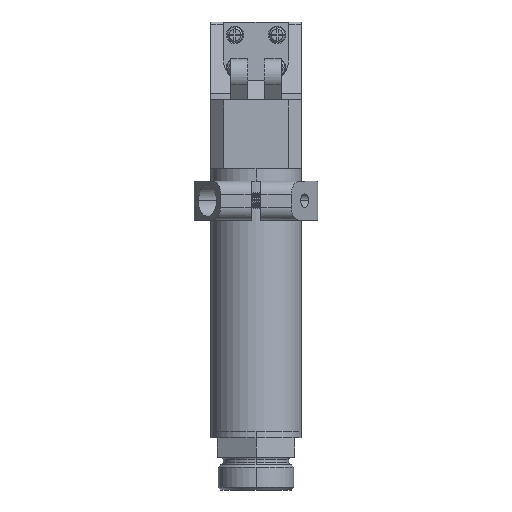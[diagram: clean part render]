
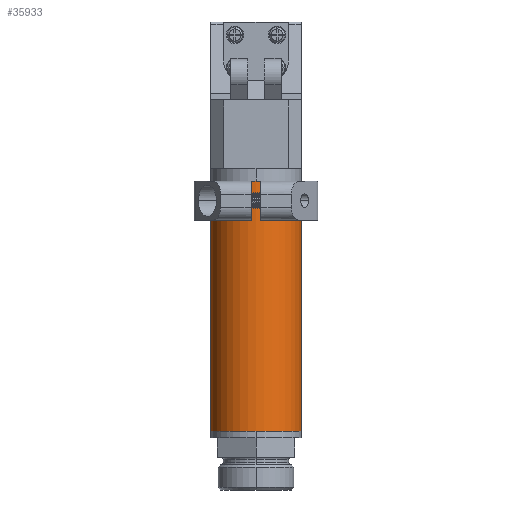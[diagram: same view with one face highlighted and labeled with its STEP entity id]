
A CAD part, front view. The second image highlights one B-rep face of the part: STEP entity #35933.
In plain terms, the highlighted cylindrical face has radius 7 mm (diameter 14 mm), a partial arc.
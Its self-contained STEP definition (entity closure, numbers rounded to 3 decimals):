
#356 = CARTESIAN_POINT ( 'NONE',  ( -23.387, -3.533, -62.758 ) ) ;
#2716 = DIRECTION ( 'NONE',  ( 0., 0., -1. ) ) ;
#2725 = CARTESIAN_POINT ( 'NONE',  ( -23.387, -3.533, -24.258 ) ) ;
#7471 = CIRCLE ( 'NONE', #125870, 7. ) ;
#8814 = DIRECTION ( 'NONE',  ( 0., 0., -1. ) ) ;
#12188 = CYLINDRICAL_SURFACE ( 'NONE', #107944, 7. ) ;
#13589 = DIRECTION ( 'NONE',  ( 0., 0., -1. ) ) ;
#18425 = VERTEX_POINT ( 'NONE', #2725 ) ;
#27029 = EDGE_CURVE ( 'NONE', #59931, #18425, #7471, .T. ) ;
#30334 = EDGE_LOOP ( 'NONE', ( #99077, #125480, #77110, #85995 ) ) ;
#31200 = CARTESIAN_POINT ( 'NONE',  ( -23.387, -3.533, -62.758 ) ) ;
#31789 = VERTEX_POINT ( 'NONE', #47917 ) ;
#35933 = ADVANCED_FACE ( 'NONE', ( #49376 ), #12188, .T. ) ;
#42632 = LINE ( 'NONE', #31200, #97764 ) ;
#44026 = CIRCLE ( 'NONE', #96922, 7. ) ;
#45202 = DIRECTION ( 'NONE',  ( 0., 1., 0. ) ) ;
#46914 = EDGE_CURVE ( 'NONE', #90904, #18425, #42632, .T. ) ;
#47917 = CARTESIAN_POINT ( 'NONE',  ( -9.387, -3.533, -62.758 ) ) ;
#49376 = FACE_OUTER_BOUND ( 'NONE', #30334, .T. ) ;
#52338 = DIRECTION ( 'NONE',  ( 0., 0., 1. ) ) ;
#59931 = VERTEX_POINT ( 'NONE', #128386 ) ;
#60736 = EDGE_CURVE ( 'NONE', #31789, #59931, #72048, .T. ) ;
#64766 = CARTESIAN_POINT ( 'NONE',  ( -16.387, -3.533, -24.258 ) ) ;
#70781 = CARTESIAN_POINT ( 'NONE',  ( -16.387, -3.533, -62.758 ) ) ;
#72048 = LINE ( 'NONE', #114500, #127355 ) ;
#75178 = DIRECTION ( 'NONE',  ( 1., 0., 0. ) ) ;
#77110 = ORIENTED_EDGE ( 'NONE', *, *, #114825, .F. ) ;
#81255 = DIRECTION ( 'NONE',  ( 1., 0., 0. ) ) ;
#85995 = ORIENTED_EDGE ( 'NONE', *, *, #60736, .T. ) ;
#90904 = VERTEX_POINT ( 'NONE', #356 ) ;
#96922 = AXIS2_PLACEMENT_3D ( 'NONE', #70781, #8814, #81255 ) ;
#97764 = VECTOR ( 'NONE', #103597, 1000. ) ;
#99077 = ORIENTED_EDGE ( 'NONE', *, *, #27029, .T. ) ;
#103597 = DIRECTION ( 'NONE',  ( 0., 0., 1. ) ) ;
#107329 = CARTESIAN_POINT ( 'NONE',  ( -16.387, -3.533, -22.333 ) ) ;
#107944 = AXIS2_PLACEMENT_3D ( 'NONE', #107329, #13589, #45202 ) ;
#114500 = CARTESIAN_POINT ( 'NONE',  ( -9.387, -3.533, -62.758 ) ) ;
#114825 = EDGE_CURVE ( 'NONE', #31789, #90904, #44026, .T. ) ;
#125480 = ORIENTED_EDGE ( 'NONE', *, *, #46914, .F. ) ;
#125870 = AXIS2_PLACEMENT_3D ( 'NONE', #64766, #2716, #75178 ) ;
#127355 = VECTOR ( 'NONE', #52338, 1000. ) ;
#128386 = CARTESIAN_POINT ( 'NONE',  ( -9.387, -3.533, -24.258 ) ) ;
